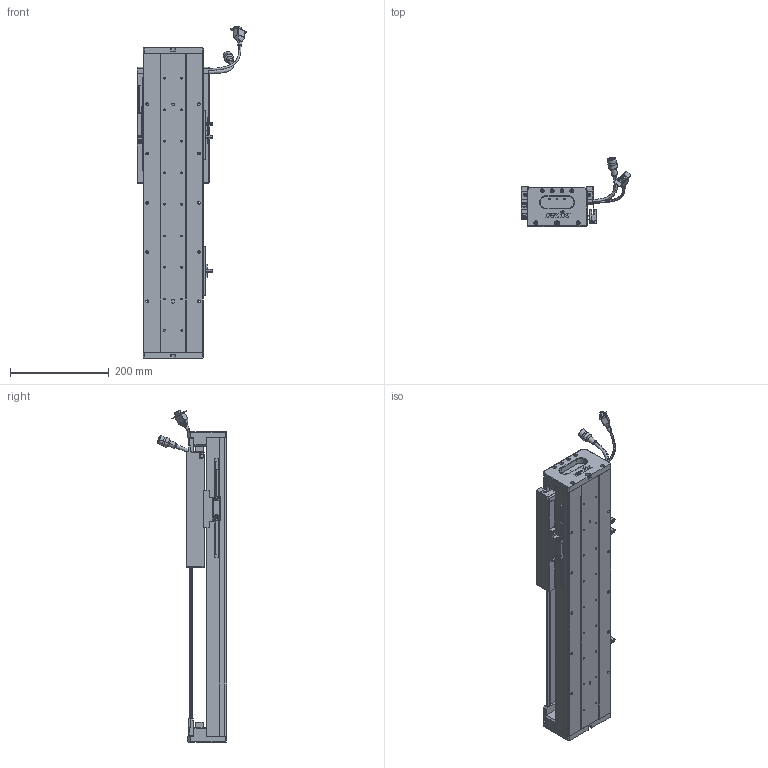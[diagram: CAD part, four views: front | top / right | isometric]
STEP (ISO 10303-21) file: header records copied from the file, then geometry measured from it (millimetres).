
FILE_DESCRIPTION (( 'STEP AP203' ), '1' );
FILE_NAME ('Z3-RY120D-1-L500-B-K.SLDASM_0300.step', '2021-05-17T05:45:47', ( '盈信电脑' ), ( '东莞市道滘镇水果街19号' ), 'SwSTEP 2.0', 'SolidWorks 2016', '' );
FILE_SCHEMA (( 'CONFIG_CONTROL_DESIGN' ));
Length unit declared in the file: millimetre
Products named in the file (37): 140蚥薯蝶輸; SCALE-Part-2; SHIELDPLATE; SCREW-M1.6-1; RY100FB-遵嫖萇覜茼え; COVER; Z3-RY120铝滑块（21款）; 140雄赽晤鎢ん堤盄; SCREW-M1.7-1; HARNESS; Z3-RY120-L500詩湍100mm遵_0300; 覜茼ん672; SCREW-M1.6; LABEL; Z-RY120D詩湍狟揤裔; 120-Z-臏賑輸盄裔(21遴); SCREW-M1.6-3; Z-RY120D詩湍奻揤裔; HOLDER0; LABEL-Part-1; PSLH080_PSLF2; HARNESS-Part-2; 672嫖萇羲壽假蚾釱; SCALE-Part-1; SCREW-M1.7; Z3-RY120D-1-L500-B-K.SLDASM_0300; PBU_SHEET; SEAL; SCREW-M1.6-2; SEAL-Part-1; Z-120詩湍傷裔啣; Z3-RY120-500-倰第菁釱_0300; COVER-Part-1; 榋妏寠巭燃_暯_M2_2; 080黍杅芛假蚾釱21遴; HARNESS-Part-1; SCALE
Assembly tree (43 placements, depth 4):
  Z3-RY120D-1-L500-B-K.SLDASM_0300
    Z3-RY120-500-倰第菁釱_0300
    覜茼ん672  x3
    672嫖萇羲壽假蚾釱  x2
    Z3-RY120铝滑块（21款）
    PSLH080_PSLF2
      SCALE
        SCALE-Part-1
        SCALE-Part-2
      HARNESS
        HARNESS-Part-1
        HARNESS-Part-2
      LABEL
        LABEL-Part-1
      COVER
        COVER-Part-1
      SEAL
        SEAL-Part-1
      榋妏寠巭燃_暯_M2_2
      SHIELDPLATE
      SCREW-M1.7
      SCREW-M1.7-1
      PBU_SHEET
      SCREW-M1.6
      SCREW-M1.6-1
      SCREW-M1.6-2
      SCREW-M1.6-3
      HOLDER0
    080黍杅芛假蚾釱21遴
    120-Z-臏賑輸盄裔(21遴)
    140雄赽晤鎢ん堤盄
    140蚥薯蝶輸  x2
    RY100FB-遵嫖萇覜茼え
    Z-120詩湍傷裔啣  x2
    Z-RY120D詩湍奻揤裔  x2
    Z-RY120D詩湍狟揤裔  x2
    Z3-RY120-L500詩湍100mm遵_0300
Bounding box: 222.88 x 140.94 x 674 mm (x, y, z)
Volume: 2262761.9 mm3; surface area: 720892.5 mm2
Topology: 38 solids, 38 shells, 2541 faces, 6697 edges, 4228 vertices
Faces by surface type: cylinder 1089, plane 1080, cone 250, torus 69, bspline 53
Entity records: 72298 total; most frequent: CARTESIAN_POINT 17735, DIRECTION 10631, ORIENTED_EDGE 10418, EDGE_CURVE 5209, AXIS2_PLACEMENT_3D 3874, VERTEX_POINT 3348, LINE 2883, VECTOR 2883
